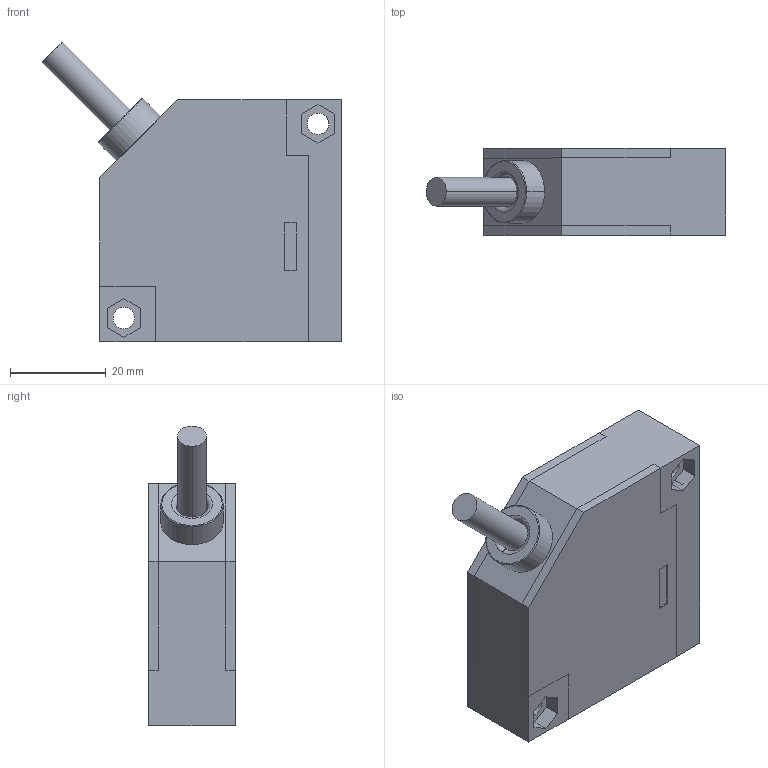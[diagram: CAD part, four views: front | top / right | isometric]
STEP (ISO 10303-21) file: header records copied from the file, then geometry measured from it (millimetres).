
FILE_DESCRIPTION((''),'2;1');
FILE_NAME('ASMEJ-30N1_ASM','2018-08-13T08:16:27',('Administrator'),(''),'CREO PARAMETRIC BY PTC INC, 2016390','CREO PARAMETRIC BY PTC INC, 2016390','');
FILE_SCHEMA(('CONFIG_CONTROL_DESIGN'));
Length unit declared in the file: millimetre
Products named in the file (5): EJ-30N1-MAINBODY; EJ-30N1-GLASS; EJ_COVER; PRT0001; ASMEJ-30N1_ASM
Assembly tree (4 placements, depth 2):
  ASMEJ-30N1_ASM
    EJ-30N1-MAINBODY
    EJ-30N1-GLASS
    EJ_COVER
    PRT0001
Bounding box: 62.55 x 18.1 x 62.55 mm (x, y, z)
Volume: 18549.5 mm3; surface area: 20491.6 mm2
Topology: 5 solids, 5 shells, 198 faces, 538 edges, 352 vertices
Faces by surface type: plane 163, cylinder 20, cone 9, torus 4, sphere 2
Entity records: 6482 total; most frequent: CARTESIAN_POINT 1306, ORIENTED_EDGE 1072, DIRECTION 1003, EDGE_CURVE 536, VECTOR 441, LINE 441, VERTEX_POINT 352, AXIS2_PLACEMENT_3D 281
